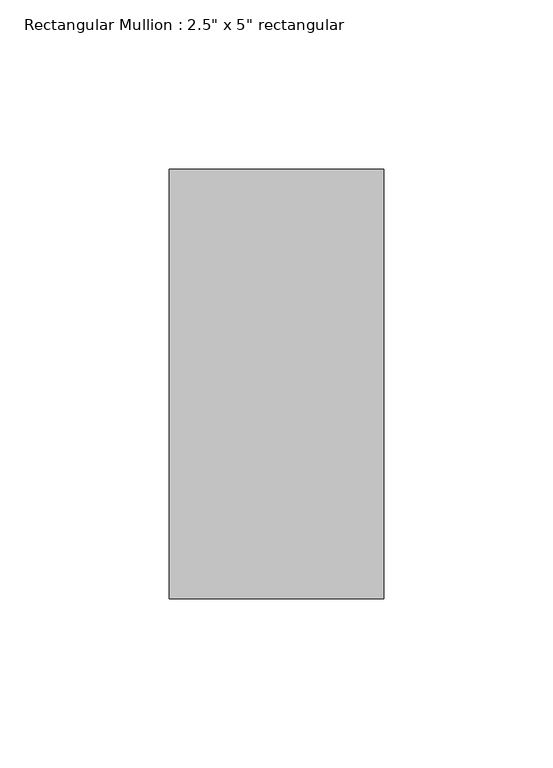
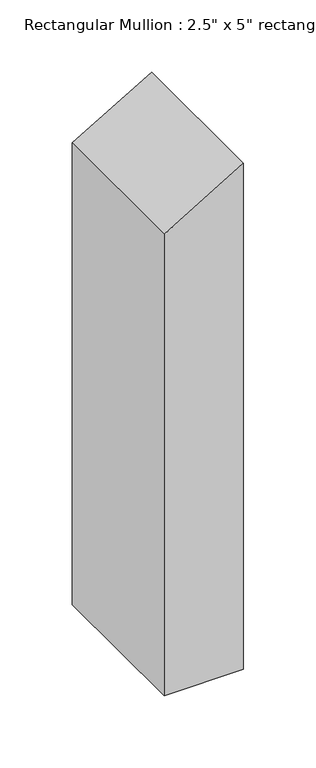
"""IFC4 building model written with IfcOpenShell, lengths in millimetres: member geometry."""

from ifc_helpers import new_model, si_unit, frame, origin, place, context, project, spatial, polyline, outline, extrude, source, transform, mapped, element, save


def member_37fa9b24(model_context):
    return source(origin(), model_context, "Body", "SweptSolid", [
        extrude(outline(polyline([(0.0, 0.0), (-37.4359564, -63.5), (-427.4916108, -63.5), (-427.4916108, 0.0), (0.0, 0.0)])), frame((0.0, -63.5, 0.0), z_axis=(0.0, 1.0, 0.0), x_axis=(0.0, 0.0, 1.0)), (0.0, 0.0, 1.0), 127.0),
    ])


if __name__ == "__main__":
    model = new_model("IFC4")
    model_context = context("Model", 3, world=origin())
    ifc_project = project(units=[si_unit("LENGTHUNIT", "METRE", prefix="MILLI")], contexts=[model_context])
    site = spatial("IfcSite", under=ifc_project)
    building = spatial("IfcBuilding", under=site)
    placement = place(None, origin())
    member_shape = member_37fa9b24(model_context)
    element("IfcMember", 1, ObjectType="Rectangular Mullion : 2.5\" x 5\" rectangular", at=placement, inside=building, context=model_context, shape_type="MappedRepresentation", body=[
        mapped(member_shape, transform((0.0, 0.0, 0.0), x_axis=(1.0, 0.0, 0.0), y_axis=(0.0, 1.0, 0.0), z_axis=(0.0, 0.0, 1.0))),
    ])
    save(model, "model.ifc")
